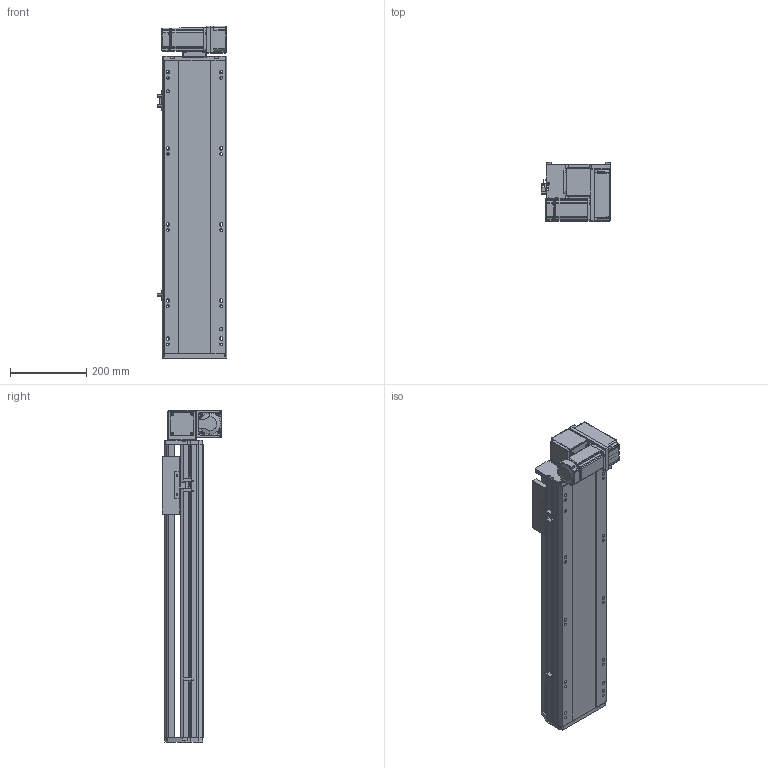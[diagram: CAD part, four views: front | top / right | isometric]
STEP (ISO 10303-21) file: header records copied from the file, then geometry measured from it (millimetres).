
FILE_DESCRIPTION (( 'STEP AP214' ), '1' );
FILE_NAME ('RTB17S-XX-500-RM-M40-C4.STEP', '2025-12-11T08:11:44', ( '' ), ( '' ), 'SwSTEP 2.0', 'SolidWorks 2018', '' );
FILE_SCHEMA (( 'AUTOMOTIVE_DESIGN' ));
Length unit declared in the file: millimetre
Products named in the file (14): RTB17S-L-004佪裝蹟譫蟀諉釱^RTB17S-XX-XX-RM-M40-C4; RTB17-R-011菁釱^RTB17S-XX-XX-RM-M40-C4; RTB14-L-005P--轴承塑胶压盖^RTB17S-RM-皮带座装配-400W_RTB17S-XX-XX-RM-M40-C4; RTB17S-RM-々湍釱蚾饜-400W^RTB17S-XX-XX-RM-M40-C4; RTB17S-L-014-T20--々湍釱^RTB17S-RM-々湍釱蚾饜-400W_RTB17S-XX-XX-RM-M40-C4; RTB14-L-017P^RTB17S-RM-々湍釱蚾饜-400W_RTB17S-XX-XX-RM-M40-C4; RTB14-L-008-M20--萇儂啣^RTB17S-RM-々湍釱蚾饜-400W_RTB17S-XX-XX-RM-M40-C4; RTB17S-L-001耜醱啣^RTB17S-XX-XX-RM-M40-C4; RTH13-BL-012覜茼え俋离^RTB17S-XX-XX-RM-M40-C4; RTB14-L-018P^RTB17S-RM-々湍釱蚾饜-400W_RTB17S-XX-XX-RM-M40-C4; 400W侜督萇儂^RTB17S-XX-XX-RM-M40-C4; RTB17S-XX-500-RM-M40-C4; OMRON EE-SX672 传感器^RTB17S-XX-XX-RM-M40-C4; RTB17S-L-007奻裔^RTB17S-XX-XX-RM-M40-C4
Assembly tree (16 placements, depth 3):
  RTB17S-XX-500-RM-M40-C4
    RTB17-R-011菁釱^RTB17S-XX-XX-RM-M40-C4
    RTB17S-L-007奻裔^RTB17S-XX-XX-RM-M40-C4
    OMRON EE-SX672 传感器^RTB17S-XX-XX-RM-M40-C4  x3
    RTB17S-L-001耜醱啣^RTB17S-XX-XX-RM-M40-C4
    400W侜督萇儂^RTB17S-XX-XX-RM-M40-C4
    RTB17S-L-004佪裝蹟譫蟀諉釱^RTB17S-XX-XX-RM-M40-C4
    RTH13-BL-012覜茼え俋离^RTB17S-XX-XX-RM-M40-C4
    RTB17S-RM-々湍釱蚾饜-400W^RTB17S-XX-XX-RM-M40-C4
      RTB17S-L-014-T20--々湍釱^RTB17S-RM-々湍釱蚾饜-400W_RTB17S-XX-XX-RM-M40-C4
      RTB14-L-005P--轴承塑胶压盖^RTB17S-RM-皮带座装配-400W_RTB17S-XX-XX-RM-M40-C4
      RTB14-L-008-M20--萇儂啣^RTB17S-RM-々湍釱蚾饜-400W_RTB17S-XX-XX-RM-M40-C4
      RTB14-L-017P^RTB17S-RM-々湍釱蚾饜-400W_RTB17S-XX-XX-RM-M40-C4  x2
      RTB14-L-018P^RTB17S-RM-々湍釱蚾饜-400W_RTB17S-XX-XX-RM-M40-C4
Bounding box: 183.5 x 156.5 x 872.5 mm (x, y, z)
Volume: 8294293.3 mm3; surface area: 1054318.5 mm2
Topology: 15 solids, 15 shells, 2173 faces, 5979 edges, 3897 vertices
Faces by surface type: plane 1064, cylinder 661, bspline 301, cone 139, torus 8
Entity records: 61097 total; most frequent: CARTESIAN_POINT 16984, ORIENTED_EDGE 8802, DIRECTION 8216, EDGE_CURVE 4401, VERTEX_POINT 2885, AXIS2_PLACEMENT_3D 2815, LINE 2586, VECTOR 2586
